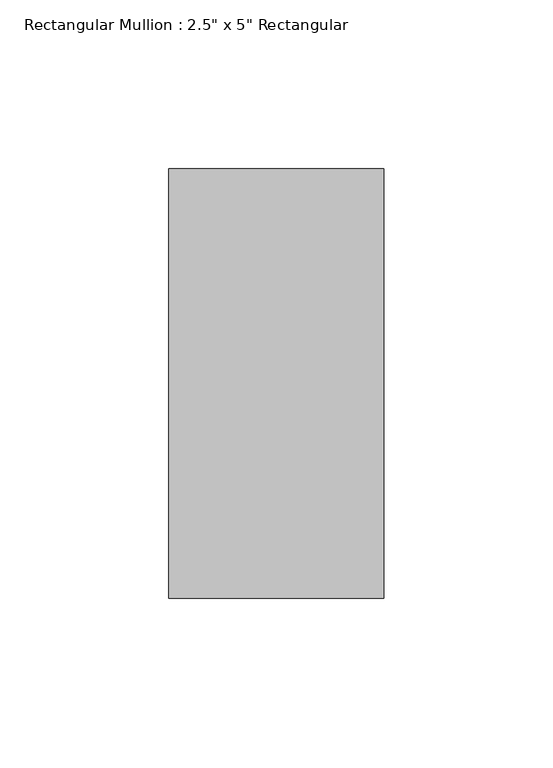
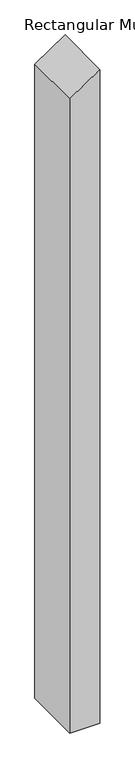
"""IFC4 building model written with IfcOpenShell, lengths in millimetres: member geometry."""

import ifcopenshell
import ifcopenshell.guid

model = None  # the IFC model being written
_history = None  # IfcOwnerHistory: only IFC2X3 demands one
_inside = {}  # id of a spatial element -> (the spatial element, [elements in it])
_under = {}  # id of a project, library or spatial element -> (it, [spatial elements below it])
_declared = {}  # id of a project -> (the project, [libraries it declares])
_typed = {}  # id of a type object -> (the type object, [elements of that type])
_made_of = {}  # id of a material, layer set ... -> (it, [elements and type objects made of it])


def new_model(schema):
    """Start an empty IFC model of exactly this schema.

    Asked for "IFC4X3", IfcOpenShell would pick the latest addendum, in which some entities
    have other attributes; the version numbers below select the first issue.
    IFC2X3 requires an IfcOwnerHistory on every rooted entity: one is made here for all.
    """
    global model, _history
    if schema == "IFC4X3":
        model = ifcopenshell.file(schema_version=(4, 3, 0, 0))
    else:
        model = ifcopenshell.file(schema=schema)
    _inside.clear()
    _under.clear()
    _declared.clear()
    _typed.clear()
    _made_of.clear()
    _history = None
    if model.schema == "IFC2X3":
        org = make("IfcOrganization", Name="unknown")
        user = make(
            "IfcPersonAndOrganization",
            ThePerson=make("IfcPerson", FamilyName="unknown"),
            TheOrganization=org,
        )
        app = make(
            "IfcApplication",
            ApplicationDeveloper=org,
            Version="unknown",
            ApplicationFullName="unknown",
            ApplicationIdentifier="unknown",
        )
        _history = make(
            "IfcOwnerHistory",
            OwningUser=user,
            OwningApplication=app,
            ChangeAction="ADDED",
            CreationDate=0,
        )
    return model


def make(cls, **values):
    """One entity of the class cls with the attributes given. An attribute that is None is left unset."""
    return model.create_entity(
        cls, **{name: value for name, value in values.items() if value is not None}
    )


def rooted(cls, **values):
    """An entity with a GlobalId (a new one), such as an element, a storey or a relation."""
    return make(cls, GlobalId=ifcopenshell.guid.new(), OwnerHistory=_history, **values)


def si_unit(unit_type, name, prefix=None):
    """IfcSIUnit, for example si_unit("LENGTHUNIT", "METRE", prefix="MILLI")."""
    return make("IfcSIUnit", UnitType=unit_type, Prefix=prefix, Name=name)


def assignment(units):
    """IfcUnitAssignment: the units of a project."""
    return None if units is None else make("IfcUnitAssignment", Units=units)


def point(xyz):
    """IfcCartesianPoint."""
    return None if xyz is None else make("IfcCartesianPoint", Coordinates=xyz)


def direction(xyz):
    """IfcDirection."""
    return None if xyz is None else make("IfcDirection", DirectionRatios=xyz)


def frame(location, z_axis=None, x_axis=None):
    """IfcAxis2Placement3D, a coordinate frame: its origin and axes. An axis left out is left unset."""
    return make(
        "IfcAxis2Placement3D",
        Location=point(location),
        Axis=direction(z_axis),
        RefDirection=direction(x_axis),
    )


def origin():
    """The frame at (0, 0, 0) with its axes left unset."""
    return frame((0.0, 0.0, 0.0))


def place(relative_to, where):
    """IfcLocalPlacement: puts the frame where relative to a parent placement (None: the world)."""
    return make(
        "IfcLocalPlacement", PlacementRelTo=relative_to, RelativePlacement=where
    )


def context(
    kind, dimensions, precision=None, world=None, true_north=None, identifier=None
):
    """IfcGeometricRepresentationContext, for example the 3D "Model" context."""
    return make(
        "IfcGeometricRepresentationContext",
        ContextIdentifier=identifier,
        ContextType=kind,
        CoordinateSpaceDimension=dimensions,
        Precision=precision,
        WorldCoordinateSystem=world,
        TrueNorth=true_north,
    )


def project(units=None, contexts=None):
    """IfcProject with its units and contexts."""
    return rooted(
        "IfcProject",
        Name="project",
        RepresentationContexts=contexts,
        UnitsInContext=assignment(units),
    )


def spatial(cls, under=None, at=None, **own):
    """A site, building, storey or space (cls), placed at a placement, below another one or the project."""
    s = rooted(cls, ObjectPlacement=at, **own)
    if under is not None:
        _under.setdefault(under.id(), (under, []))[1].append(s)
    return s


def polyline(points):
    """IfcPolyline through the points."""
    return make("IfcPolyline", Points=[point(p) for p in points])


def outline(outer, holes=None, kind="AREA"):
    """IfcArbitraryClosedProfileDef: a profile drawn as a closed curve; with holes, ...WithVoids."""
    if holes is None:
        return make("IfcArbitraryClosedProfileDef", ProfileType=kind, OuterCurve=outer)
    return make(
        "IfcArbitraryProfileDefWithVoids",
        ProfileType=kind,
        OuterCurve=outer,
        InnerCurves=holes,
    )


def extrude(swept, where, along, depth):
    """IfcExtrudedAreaSolid: the profile swept, set in the frame where, extruded along a direction by depth."""
    return make(
        "IfcExtrudedAreaSolid",
        SweptArea=swept,
        Position=where,
        ExtrudedDirection=direction(along),
        Depth=depth,
    )


def shape(context_of_items, identifier, shape_type, items):
    """IfcShapeRepresentation: the items that make up one representation, for example the "Body"."""
    return make(
        "IfcShapeRepresentation",
        ContextOfItems=context_of_items,
        RepresentationIdentifier=identifier,
        RepresentationType=shape_type,
        Items=items,
    )


def source(mapping_origin, context_of_items, identifier, shape_type, items):
    """IfcRepresentationMap: a shape defined once, which mapped items show again and again."""
    return make(
        "IfcRepresentationMap",
        MappingOrigin=mapping_origin,
        MappedRepresentation=shape(context_of_items, identifier, shape_type, items),
    )


def transform(
    local_origin,
    x_axis=None,
    y_axis=None,
    z_axis=None,
    scale=None,
    scale2=None,
    scale3=None,
    uniform=True,
):
    """IfcCartesianTransformationOperator3D, or its non-uniform kind. x_axis, y_axis, z_axis: its Axis1, 2, 3."""
    if uniform:
        return make(
            "IfcCartesianTransformationOperator3D",
            Axis1=direction(x_axis),
            Axis2=direction(y_axis),
            LocalOrigin=point(local_origin),
            Scale=scale,
            Axis3=direction(z_axis),
        )
    return make(
        "IfcCartesianTransformationOperator3DnonUniform",
        Axis1=direction(x_axis),
        Axis2=direction(y_axis),
        LocalOrigin=point(local_origin),
        Scale=scale,
        Axis3=direction(z_axis),
        Scale2=scale2,
        Scale3=scale3,
    )


def mapped(mapping_source, mapping_target):
    """IfcMappedItem: shows the shape of a source again, moved by a transform."""
    return make(
        "IfcMappedItem", MappingSource=mapping_source, MappingTarget=mapping_target
    )


def made_of(thing, what):
    """Note that an element or type object is made of a material, layer set ...; save() writes the relation."""
    if what is not None:
        _made_of.setdefault(what.id(), (what, []))[1].append(thing)
    return thing


def element(
    cls,
    number,
    at=None,
    inside=None,
    cuts=None,
    type_object=None,
    material=None,
    context=None,
    identifier="Body",
    shape_type=None,
    held_by="IfcProductDefinitionShape",
    body=None,
    shapes=None,
    **own,
):
    """One element of the class cls, such as IfcWall. Its Tag is "e" and its number.

    at: its placement. inside: the storey or other place that contains it. cuts: it is an
    opening in that element (IfcRelVoidsElement). A single representation is given by context,
    identifier, shape_type and body (its items); several are given by shapes. held_by: the class
    of the entity that holds the representations. save() writes the other relations.
    """
    e = rooted(cls, Tag="e%d" % number, ObjectPlacement=at, **own)
    if body is not None:
        shapes = [shape(context, identifier, shape_type, body)]
    if shapes is not None:
        e.Representation = make(held_by, Representations=shapes)
    if inside is not None:
        _inside.setdefault(inside.id(), (inside, []))[1].append(e)
    if cuts is not None:
        rooted(
            "IfcRelVoidsElement", RelatingBuildingElement=cuts, RelatedOpeningElement=e
        )
    if type_object is not None:
        _typed.setdefault(type_object.id(), (type_object, []))[1].append(e)
    return made_of(e, material)


def aggregate(whole, parts):
    """IfcRelAggregates: a whole, such as a stair, and the parts it consists of."""
    return rooted("IfcRelAggregates", RelatingObject=whole, RelatedObjects=parts)


def save(model, path):
    """Write the relations noted so far, then the file.

    IfcRelAggregates (storeys below a building ...), IfcRelContainedInSpatialStructure (elements
    in a storey), IfcRelDefinesByType, IfcRelAssociatesMaterial and IfcRelDeclares: one each for
    every whole, place, type object, material and project.
    """
    for whole, parts in _under.values():
        aggregate(whole, parts)
    for where, things in _inside.values():
        rooted(
            "IfcRelContainedInSpatialStructure",
            RelatedElements=things,
            RelatingStructure=where,
        )
    for kind, things in _typed.values():
        rooted("IfcRelDefinesByType", RelatedObjects=things, RelatingType=kind)
    for what, things in _made_of.values():
        rooted("IfcRelAssociatesMaterial", RelatedObjects=things, RelatingMaterial=what)
    for by, libraries in _declared.values():
        rooted("IfcRelDeclares", RelatingContext=by, RelatedDefinitions=libraries)
    model.write(path)


def member_7b5ecba7(model_context):
    return source(origin(), model_context, "Body", "SweptSolid", [
        extrude(outline(polyline([(0.0, 0.0), (-42.6043933, -63.5), (-1454.8329191, -63.5), (-1454.8329191, 0.0), (0.0, 0.0)])), frame((0.0, -63.5, 0.0), z_axis=(0.0, 1.0, 0.0), x_axis=(0.0, 0.0, 1.0)), (0.0, 0.0, 1.0), 127.0),
    ])


if __name__ == "__main__":
    model = new_model("IFC4")
    model_context = context("Model", 3, world=origin())
    ifc_project = project(units=[si_unit("LENGTHUNIT", "METRE", prefix="MILLI")], contexts=[model_context])
    site = spatial("IfcSite", under=ifc_project)
    building = spatial("IfcBuilding", under=site)
    placement = place(None, origin())
    member_shape = member_7b5ecba7(model_context)
    element("IfcMember", 1, ObjectType="Rectangular Mullion : 2.5\" x 5\" Rectangular", at=placement, inside=building, context=model_context, shape_type="MappedRepresentation", body=[
        mapped(member_shape, transform((0.0, 0.0, 0.0), x_axis=(1.0, 0.0, 0.0), y_axis=(0.0, 1.0, 0.0), z_axis=(0.0, 0.0, 1.0))),
    ])
    save(model, "model.ifc")
